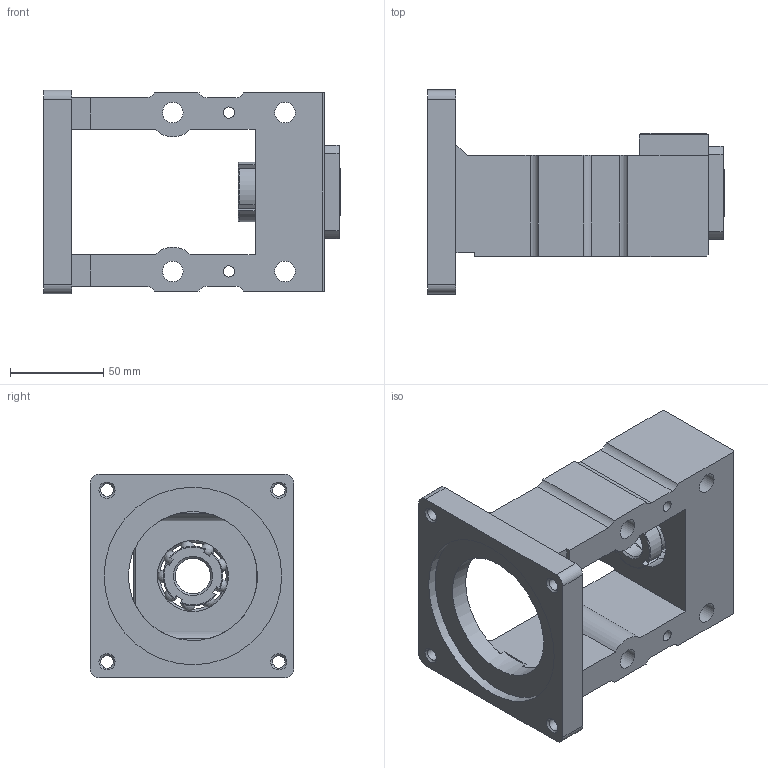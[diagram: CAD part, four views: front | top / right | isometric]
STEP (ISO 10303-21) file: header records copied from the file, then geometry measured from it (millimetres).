
FILE_DESCRIPTION(('STEP AP214'), '1');
FILE_NAME('HM20-110C5 - Êðîíøòåéí HM20', '', ('UNSPECIFIED'), ('UNSPECIFIED'), 'ASCON STEP Converter 1.6', 'ASCON Math Kernel', '');
FILE_SCHEMA(('AUTOMOTIVE_DESIGN { 1 0 10303 214 3 1 1}'));
Length unit declared in the file: millimetre
Products named in the file (1): HM20-110C5
Bounding box: 158.5 x 109 x 109 mm (x, y, z)
Volume: 494487.4 mm3; surface area: 120406.8 mm2
Topology: 31 solids, 31 shells, 312 faces, 768 edges, 495 vertices
Faces by surface type: plane 146, cylinder 80, cone 44, torus 24, sphere 18
Full cylindrical faces by diameter (mm): 4.917 x4, 5 x4, 6 x6, 6.5 x4, 6.647 x4, 10 x4, 11 x8, 16 x4, 18.917 x1, 20 x4, 26 x2, 26.435 x4, 27.5 x1, 35.565 x2, 37 x1, 38 x1, 42 x4, 69 x1, 95 x1
Entity records: 11883 total; most frequent: CARTESIAN_POINT 2342, DIRECTION 1465, ORIENTED_EDGE 1172, AXIS2_PLACEMENT_3D 606, EDGE_CURVE 586, EDGE_LOOP 477, VERTEX_POINT 451, COLOUR_RGB 343
